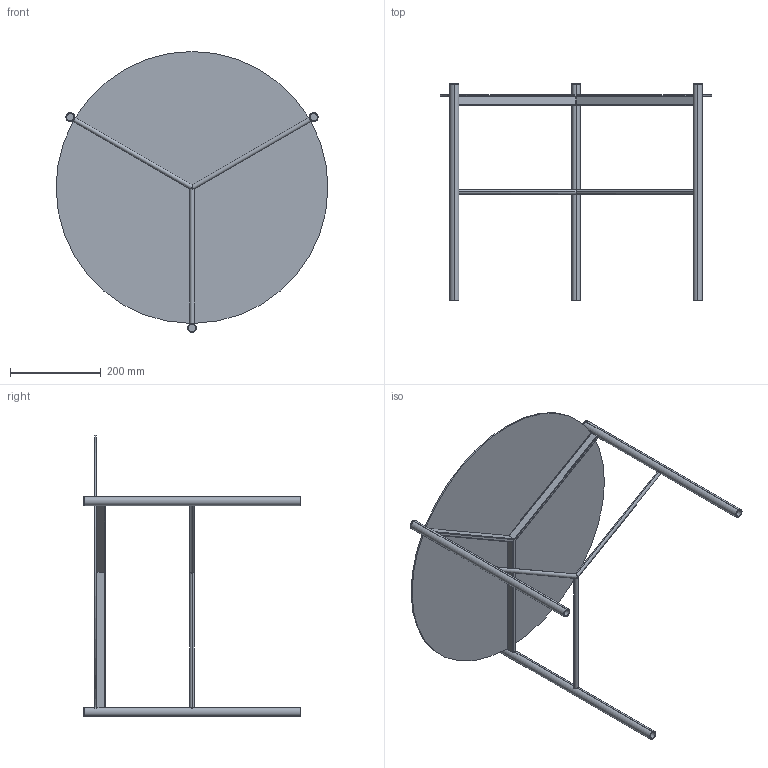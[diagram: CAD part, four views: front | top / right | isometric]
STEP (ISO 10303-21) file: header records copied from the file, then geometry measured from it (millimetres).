
FILE_DESCRIPTION (( 'STEP AP203' ), '1' );
FILE_NAME ('J301S.STEP', '2024-08-06T11:29:26', ( '' ), ( '' ), 'SwSTEP 2.0', 'SolidWorks 2022', '' );
FILE_SCHEMA (( 'CONFIG_CONTROL_DESIGN' ));
Length unit declared in the file: millimetre
Products named in the file (2): J301S; JXXXS00000000-00-jack metallo grezzo tutte le misure_J301S00000000-JACK TAVOLINO D.60x46h<A macchina>
Assembly tree (1 placements, depth 2):
  J301S
    JXXXS00000000-00-jack metallo grezzo tutte le misure_J301S00000000-JACK TAVOLINO D.60x46h<A macchina>
Bounding box: 599.97 x 479 x 620.07 mm (x, y, z)
Volume: 1082660.3 mm3; surface area: 877824.7 mm2
Topology: 13 solids, 13 shells, 121 faces, 287 edges, 190 vertices
Faces by surface type: cylinder 71, plane 50
Entity records: 4317 total; most frequent: CARTESIAN_POINT 1434, ORIENTED_EDGE 574, DIRECTION 521, EDGE_CURVE 287, VERTEX_POINT 190, AXIS2_PLACEMENT_3D 187, LINE 147, VECTOR 147
